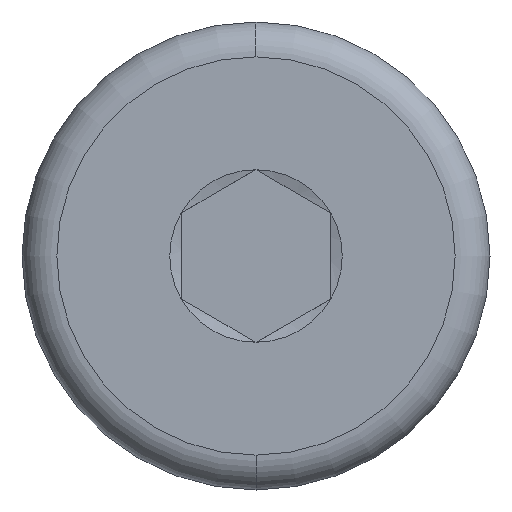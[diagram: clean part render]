
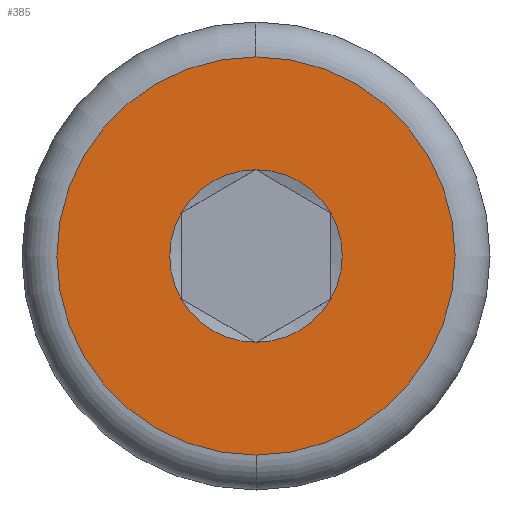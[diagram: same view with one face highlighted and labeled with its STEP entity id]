
A CAD part, left-side view. The second image highlights one B-rep face of the part: STEP entity #385.
In plain terms, the highlighted planar face has unit normal (-1, 0, 0).
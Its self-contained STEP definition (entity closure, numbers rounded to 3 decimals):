
#3 = AXIS2_PLACEMENT_3D ( 'NONE', #401, #249, #303 ) ;
#8 = DIRECTION ( 'NONE',  ( 0., 0., 1. ) ) ;
#9 = DIRECTION ( 'NONE',  ( 0., 0., -1. ) ) ;
#12 = DIRECTION ( 'NONE',  ( -1., 0., 0. ) ) ;
#13 = CARTESIAN_POINT ( 'NONE',  ( 0., 0., 4. ) ) ;
#14 = EDGE_CURVE ( 'NONE', #152, #26, #346, .T. ) ;
#26 = VERTEX_POINT ( 'NONE', #13 ) ;
#32 = VERTEX_POINT ( 'NONE', #167 ) ;
#39 = EDGE_CURVE ( 'NONE', #26, #152, #596, .T. ) ;
#74 = CARTESIAN_POINT ( 'NONE',  ( 0., 0., 0. ) ) ;
#80 = VERTEX_POINT ( 'NONE', #376 ) ;
#90 = AXIS2_PLACEMENT_3D ( 'NONE', #460, #672, #207 ) ;
#91 = CIRCLE ( 'NONE', #172, 1.732 ) ;
#104 = ORIENTED_EDGE ( 'NONE', *, *, #272, .T. ) ;
#121 = VERTEX_POINT ( 'NONE', #129 ) ;
#122 = DIRECTION ( 'NONE',  ( 1., 0., 0. ) ) ;
#129 = CARTESIAN_POINT ( 'NONE',  ( 0., -1.5, 0.866 ) ) ;
#138 = ORIENTED_EDGE ( 'NONE', *, *, #39, .F. ) ;
#142 = DIRECTION ( 'NONE',  ( 1., 0., 0. ) ) ;
#152 = VERTEX_POINT ( 'NONE', #550 ) ;
#158 = CARTESIAN_POINT ( 'NONE',  ( 0., 0., 0. ) ) ;
#163 = ORIENTED_EDGE ( 'NONE', *, *, #336, .T. ) ;
#167 = CARTESIAN_POINT ( 'NONE',  ( 0., 0., 1.732 ) ) ;
#172 = AXIS2_PLACEMENT_3D ( 'NONE', #662, #142, #439 ) ;
#207 = DIRECTION ( 'NONE',  ( 0., 0., -1. ) ) ;
#208 = ORIENTED_EDGE ( 'NONE', *, *, #619, .T. ) ;
#215 = CARTESIAN_POINT ( 'NONE',  ( 0., 0., 0. ) ) ;
#216 = ORIENTED_EDGE ( 'NONE', *, *, #368, .T. ) ;
#239 = ORIENTED_EDGE ( 'NONE', *, *, #533, .T. ) ;
#249 = DIRECTION ( 'NONE',  ( 1., 0., 0. ) ) ;
#254 = EDGE_LOOP ( 'NONE', ( #163, #208, #104, #216, #464, #239 ) ) ;
#266 = VERTEX_POINT ( 'NONE', #659 ) ;
#272 = EDGE_CURVE ( 'NONE', #121, #266, #411, .T. ) ;
#289 = CARTESIAN_POINT ( 'NONE',  ( 0., 1.5, -0.866 ) ) ;
#297 = CIRCLE ( 'NONE', #3, 1.732 ) ;
#303 = DIRECTION ( 'NONE',  ( 0., 0., -1. ) ) ;
#304 = CARTESIAN_POINT ( 'NONE',  ( 0., 0., 0. ) ) ;
#323 = DIRECTION ( 'NONE',  ( 1., 0., 0. ) ) ;
#335 = CIRCLE ( 'NONE', #431, 1.732 ) ;
#336 = EDGE_CURVE ( 'NONE', #423, #32, #398, .T. ) ;
#346 = CIRCLE ( 'NONE', #664, 4. ) ;
#359 = AXIS2_PLACEMENT_3D ( 'NONE', #158, #663, #558 ) ;
#368 = EDGE_CURVE ( 'NONE', #266, #80, #455, .T. ) ;
#369 = PLANE ( 'NONE',  #370 ) ;
#370 = AXIS2_PLACEMENT_3D ( 'NONE', #215, #12, #8 ) ;
#376 = CARTESIAN_POINT ( 'NONE',  ( 0., 0., -1.732 ) ) ;
#384 = FACE_OUTER_BOUND ( 'NONE', #408, .T. ) ;
#385 = ADVANCED_FACE ( 'NONE', ( #526, #384 ), #369, .T. ) ;
#394 = CARTESIAN_POINT ( 'NONE',  ( 0., 0., 0. ) ) ;
#398 = CIRCLE ( 'NONE', #666, 1.732 ) ;
#401 = CARTESIAN_POINT ( 'NONE',  ( 0., 0., 0. ) ) ;
#408 = EDGE_LOOP ( 'NONE', ( #458, #138 ) ) ;
#410 = AXIS2_PLACEMENT_3D ( 'NONE', #74, #122, #485 ) ;
#411 = CIRCLE ( 'NONE', #359, 1.732 ) ;
#423 = VERTEX_POINT ( 'NONE', #470 ) ;
#431 = AXIS2_PLACEMENT_3D ( 'NONE', #394, #667, #442 ) ;
#439 = DIRECTION ( 'NONE',  ( 0., 0., -1. ) ) ;
#442 = DIRECTION ( 'NONE',  ( 0., 0., -1. ) ) ;
#455 = CIRCLE ( 'NONE', #90, 1.732 ) ;
#457 = DIRECTION ( 'NONE',  ( 0., 0., -1. ) ) ;
#458 = ORIENTED_EDGE ( 'NONE', *, *, #14, .F. ) ;
#460 = CARTESIAN_POINT ( 'NONE',  ( 0., 0., 0. ) ) ;
#464 = ORIENTED_EDGE ( 'NONE', *, *, #498, .T. ) ;
#470 = CARTESIAN_POINT ( 'NONE',  ( 0., 1.5, 0.866 ) ) ;
#478 = CARTESIAN_POINT ( 'NONE',  ( 0., 0., 0. ) ) ;
#485 = DIRECTION ( 'NONE',  ( 0., 0., -1. ) ) ;
#498 = EDGE_CURVE ( 'NONE', #80, #573, #91, .T. ) ;
#511 = DIRECTION ( 'NONE',  ( 1., 0., 0. ) ) ;
#526 = FACE_BOUND ( 'NONE', #254, .T. ) ;
#533 = EDGE_CURVE ( 'NONE', #573, #423, #335, .T. ) ;
#550 = CARTESIAN_POINT ( 'NONE',  ( 0., 0., -4. ) ) ;
#558 = DIRECTION ( 'NONE',  ( 0., 0., -1. ) ) ;
#573 = VERTEX_POINT ( 'NONE', #289 ) ;
#596 = CIRCLE ( 'NONE', #410, 4. ) ;
#619 = EDGE_CURVE ( 'NONE', #32, #121, #297, .T. ) ;
#659 = CARTESIAN_POINT ( 'NONE',  ( 0., -1.5, -0.866 ) ) ;
#662 = CARTESIAN_POINT ( 'NONE',  ( 0., 0., 0. ) ) ;
#663 = DIRECTION ( 'NONE',  ( 1., 0., 0. ) ) ;
#664 = AXIS2_PLACEMENT_3D ( 'NONE', #478, #323, #9 ) ;
#666 = AXIS2_PLACEMENT_3D ( 'NONE', #304, #511, #457 ) ;
#667 = DIRECTION ( 'NONE',  ( 1., 0., 0. ) ) ;
#672 = DIRECTION ( 'NONE',  ( 1., 0., 0. ) ) ;
